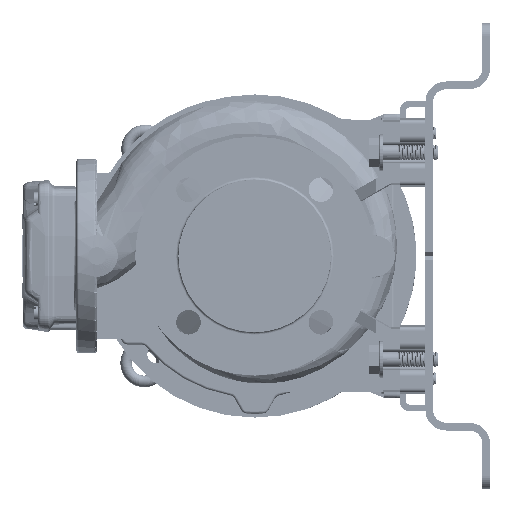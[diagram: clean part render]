
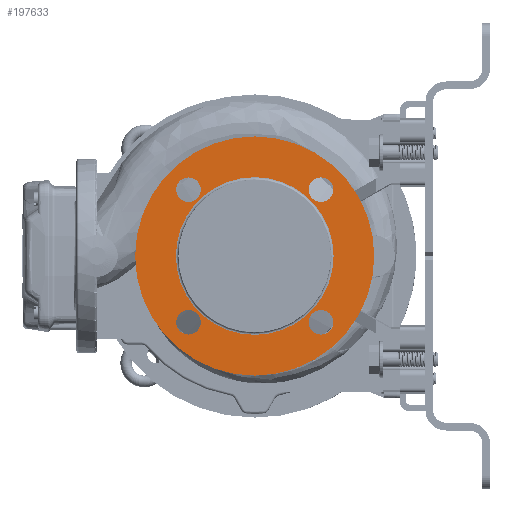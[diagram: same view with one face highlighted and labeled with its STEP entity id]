
A CAD part, left-side view. The second image highlights one B-rep face of the part: STEP entity #197633.
In plain terms, the highlighted planar face has unit normal (-1, 0, 0).
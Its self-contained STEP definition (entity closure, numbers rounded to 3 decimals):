
#1145 = VERTEX_POINT ( 'NONE', #13603 ) ;
#5625 = CIRCLE ( 'NONE', #16254, 9.5 ) ;
#8182 = EDGE_LOOP ( 'NONE', ( #46707, #157031 ) ) ;
#11468 = ORIENTED_EDGE ( 'NONE', *, *, #177914, .F. ) ;
#13603 = CARTESIAN_POINT ( 'NONE',  ( -71.025, 235.677, 232.79 ) ) ;
#15118 = EDGE_CURVE ( 'NONE', #1145, #20210, #105733, .T. ) ;
#16254 = AXIS2_PLACEMENT_3D ( 'NONE', #140729, #21655, #53974 ) ;
#17861 = EDGE_CURVE ( 'NONE', #91637, #64071, #149113, .T. ) ;
#19530 = EDGE_CURVE ( 'NONE', #187948, #158441, #79441, .T. ) ;
#19737 = ORIENTED_EDGE ( 'NONE', *, *, #26195, .F. ) ;
#20210 = VERTEX_POINT ( 'NONE', #57660 ) ;
#21241 = AXIS2_PLACEMENT_3D ( 'NONE', #153186, #118694, #150992 ) ;
#21544 = DIRECTION ( 'NONE',  ( 0., 0., 1. ) ) ;
#21655 = DIRECTION ( 'NONE',  ( -1., 0., 0. ) ) ;
#22724 = DIRECTION ( 'NONE',  ( 0., -1., 0. ) ) ;
#23713 = FACE_BOUND ( 'NONE', #102896, .T. ) ;
#24568 = DIRECTION ( 'NONE',  ( -1., 0., 0. ) ) ;
#24851 = CARTESIAN_POINT ( 'NONE',  ( -71.025, 204.177, 232.79 ) ) ;
#25310 = VERTEX_POINT ( 'NONE', #41452 ) ;
#26195 = EDGE_CURVE ( 'NONE', #64071, #91637, #106994, .T. ) ;
#26703 = DIRECTION ( 'NONE',  ( -1., 0., 0. ) ) ;
#27483 = EDGE_CURVE ( 'NONE', #87370, #25310, #192787, .T. ) ;
#27640 = EDGE_CURVE ( 'NONE', #158441, #187948, #36281, .T. ) ;
#30068 = CIRCLE ( 'NONE', #193565, 92.5 ) ;
#32983 = AXIS2_PLACEMENT_3D ( 'NONE', #24851, #106087, #60445 ) ;
#34609 = CARTESIAN_POINT ( 'NONE',  ( -71.025, 203.943, 284.056 ) ) ;
#34816 = DIRECTION ( 'NONE',  ( -1., 0., 0. ) ) ;
#36281 = CIRCLE ( 'NONE', #157232, 61. ) ;
#38342 = VERTEX_POINT ( 'NONE', #38420 ) ;
#38401 = ORIENTED_EDGE ( 'NONE', *, *, #101371, .F. ) ;
#38420 = CARTESIAN_POINT ( 'NONE',  ( -71.025, 101.412, 181.525 ) ) ;
#41452 = CARTESIAN_POINT ( 'NONE',  ( -71.025, 184.943, 284.056 ) ) ;
#44527 = CARTESIAN_POINT ( 'NONE',  ( -71.025, 143.177, 232.79 ) ) ;
#45922 = EDGE_CURVE ( 'NONE', #25310, #87370, #160718, .T. ) ;
#46707 = ORIENTED_EDGE ( 'NONE', *, *, #121687, .T. ) ;
#48135 = VERTEX_POINT ( 'NONE', #171833 ) ;
#49606 = EDGE_LOOP ( 'NONE', ( #93863, #19737 ) ) ;
#49754 = DIRECTION ( 'NONE',  ( -1., 0., 0. ) ) ;
#51969 = DIRECTION ( 'NONE',  ( 0., 0., 1. ) ) ;
#53974 = DIRECTION ( 'NONE',  ( 0., 1., 0. ) ) ;
#55894 = ORIENTED_EDGE ( 'NONE', *, *, #27640, .F. ) ;
#56060 = CARTESIAN_POINT ( 'NONE',  ( -71.025, 194.443, 181.525 ) ) ;
#57158 = FACE_BOUND ( 'NONE', #102062, .T. ) ;
#57660 = CARTESIAN_POINT ( 'NONE',  ( -71.025, 50.677, 232.79 ) ) ;
#59337 = FACE_BOUND ( 'NONE', #49606, .T. ) ;
#60445 = DIRECTION ( 'NONE',  ( 0., 1., 0. ) ) ;
#61310 = AXIS2_PLACEMENT_3D ( 'NONE', #150011, #63269, #131130 ) ;
#63269 = DIRECTION ( 'NONE',  ( -1., 0., 0. ) ) ;
#64071 = VERTEX_POINT ( 'NONE', #196020 ) ;
#66929 = CARTESIAN_POINT ( 'NONE',  ( -71.025, 194.443, 284.056 ) ) ;
#70453 = CARTESIAN_POINT ( 'NONE',  ( -71.025, 91.912, 284.056 ) ) ;
#71319 = DIRECTION ( 'NONE',  ( -1., 0., 0. ) ) ;
#74808 = DIRECTION ( 'NONE',  ( 0., -1., 0. ) ) ;
#78562 = EDGE_LOOP ( 'NONE', ( #38401, #116268 ) ) ;
#79441 = CIRCLE ( 'NONE', #185534, 61. ) ;
#84831 = ORIENTED_EDGE ( 'NONE', *, *, #27483, .F. ) ;
#85077 = AXIS2_PLACEMENT_3D ( 'NONE', #85366, #49754, #51969 ) ;
#85366 = CARTESIAN_POINT ( 'NONE',  ( -71.025, 194.443, 181.525 ) ) ;
#87370 = VERTEX_POINT ( 'NONE', #34609 ) ;
#89397 = DIRECTION ( 'NONE',  ( -1., 0., 0. ) ) ;
#91500 = CARTESIAN_POINT ( 'NONE',  ( -71.025, 143.177, 232.79 ) ) ;
#91637 = VERTEX_POINT ( 'NONE', #118835 ) ;
#93863 = ORIENTED_EDGE ( 'NONE', *, *, #17861, .F. ) ;
#94815 = EDGE_LOOP ( 'NONE', ( #173372, #55894 ) ) ;
#95850 = CIRCLE ( 'NONE', #21241, 9.5 ) ;
#101371 = EDGE_CURVE ( 'NONE', #181721, #38342, #120779, .T. ) ;
#102062 = EDGE_LOOP ( 'NONE', ( #111076, #84831 ) ) ;
#102896 = EDGE_LOOP ( 'NONE', ( #11468, #192426 ) ) ;
#105733 = CIRCLE ( 'NONE', #176801, 92.5 ) ;
#106087 = DIRECTION ( 'NONE',  ( 1., 0., 0. ) ) ;
#106994 = CIRCLE ( 'NONE', #195801, 9.5 ) ;
#107970 = EDGE_CURVE ( 'NONE', #48135, #177160, #180167, .T. ) ;
#111076 = ORIENTED_EDGE ( 'NONE', *, *, #45922, .F. ) ;
#111266 = CARTESIAN_POINT ( 'NONE',  ( -71.025, 91.912, 181.525 ) ) ;
#111520 = DIRECTION ( 'NONE',  ( -1., 0., 0. ) ) ;
#115766 = CARTESIAN_POINT ( 'NONE',  ( -71.025, 82.412, 181.525 ) ) ;
#116268 = ORIENTED_EDGE ( 'NONE', *, *, #184721, .F. ) ;
#118694 = DIRECTION ( 'NONE',  ( -1., 0., 0. ) ) ;
#118835 = CARTESIAN_POINT ( 'NONE',  ( -71.025, 184.943, 181.525 ) ) ;
#120779 = CIRCLE ( 'NONE', #131421, 9.5 ) ;
#121687 = EDGE_CURVE ( 'NONE', #20210, #1145, #30068, .T. ) ;
#124002 = DIRECTION ( 'NONE',  ( -1., 0., 0. ) ) ;
#128274 = FACE_BOUND ( 'NONE', #94815, .T. ) ;
#130451 = AXIS2_PLACEMENT_3D ( 'NONE', #70453, #34816, #191696 ) ;
#131130 = DIRECTION ( 'NONE',  ( 0., -1., 0. ) ) ;
#131421 = AXIS2_PLACEMENT_3D ( 'NONE', #111266, #26703, #145742 ) ;
#134795 = DIRECTION ( 'NONE',  ( 0., -1., 0. ) ) ;
#135953 = AXIS2_PLACEMENT_3D ( 'NONE', #66929, #71319, #134795 ) ;
#140729 = CARTESIAN_POINT ( 'NONE',  ( -71.025, 91.912, 181.525 ) ) ;
#142549 = CARTESIAN_POINT ( 'NONE',  ( -71.025, 143.177, 232.79 ) ) ;
#143894 = FACE_BOUND ( 'NONE', #78562, .T. ) ;
#145742 = DIRECTION ( 'NONE',  ( 0., 1., 0. ) ) ;
#149113 = CIRCLE ( 'NONE', #85077, 9.5 ) ;
#150011 = CARTESIAN_POINT ( 'NONE',  ( -71.025, 194.443, 284.056 ) ) ;
#150992 = DIRECTION ( 'NONE',  ( 0., 0., -1. ) ) ;
#153186 = CARTESIAN_POINT ( 'NONE',  ( -71.025, 91.912, 284.056 ) ) ;
#157023 = CARTESIAN_POINT ( 'NONE',  ( -71.025, 82.412, 284.056 ) ) ;
#157031 = ORIENTED_EDGE ( 'NONE', *, *, #15118, .T. ) ;
#157232 = AXIS2_PLACEMENT_3D ( 'NONE', #207429, #124002, #22724 ) ;
#158441 = VERTEX_POINT ( 'NONE', #218414 ) ;
#160718 = CIRCLE ( 'NONE', #135953, 9.5 ) ;
#162544 = DIRECTION ( 'NONE',  ( -1., 0., 0. ) ) ;
#169995 = CARTESIAN_POINT ( 'NONE',  ( -71.025, 82.177, 232.79 ) ) ;
#171833 = CARTESIAN_POINT ( 'NONE',  ( -71.025, 101.412, 284.056 ) ) ;
#173372 = ORIENTED_EDGE ( 'NONE', *, *, #19530, .F. ) ;
#174005 = FACE_OUTER_BOUND ( 'NONE', #8182, .T. ) ;
#176801 = AXIS2_PLACEMENT_3D ( 'NONE', #44527, #24568, #195860 ) ;
#177160 = VERTEX_POINT ( 'NONE', #157023 ) ;
#177914 = EDGE_CURVE ( 'NONE', #177160, #48135, #95850, .T. ) ;
#180167 = CIRCLE ( 'NONE', #130451, 9.5 ) ;
#181721 = VERTEX_POINT ( 'NONE', #115766 ) ;
#184721 = EDGE_CURVE ( 'NONE', #38342, #181721, #5625, .T. ) ;
#185534 = AXIS2_PLACEMENT_3D ( 'NONE', #91500, #111520, #74808 ) ;
#187948 = VERTEX_POINT ( 'NONE', #169995 ) ;
#191696 = DIRECTION ( 'NONE',  ( 0., 0., -1. ) ) ;
#192426 = ORIENTED_EDGE ( 'NONE', *, *, #107970, .F. ) ;
#192787 = CIRCLE ( 'NONE', #61310, 9.5 ) ;
#193565 = AXIS2_PLACEMENT_3D ( 'NONE', #142549, #162544, #193710 ) ;
#193710 = DIRECTION ( 'NONE',  ( 0., -1., 0. ) ) ;
#195045 = PLANE ( 'NONE',  #32983 ) ;
#195801 = AXIS2_PLACEMENT_3D ( 'NONE', #56060, #89397, #21544 ) ;
#195860 = DIRECTION ( 'NONE',  ( 0., -1., 0. ) ) ;
#196020 = CARTESIAN_POINT ( 'NONE',  ( -71.025, 203.943, 181.525 ) ) ;
#197633 = ADVANCED_FACE ( 'NONE', ( #23713, #143894, #59337, #57158, #128274, #174005 ), #195045, .F. ) ;
#207429 = CARTESIAN_POINT ( 'NONE',  ( -71.025, 143.177, 232.79 ) ) ;
#218414 = CARTESIAN_POINT ( 'NONE',  ( -71.025, 204.177, 232.79 ) ) ;
